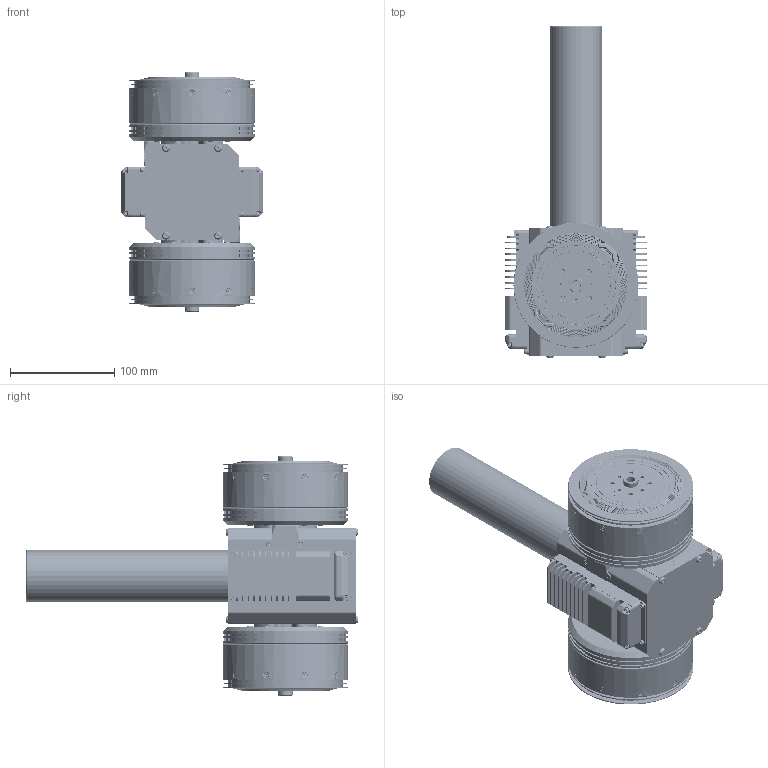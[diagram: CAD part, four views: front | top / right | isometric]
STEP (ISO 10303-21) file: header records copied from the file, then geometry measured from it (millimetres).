
FILE_DESCRIPTION (( 'STEP AP214' ), '1' );
FILE_NAME ('H11共轴-内走线方案.STEP', '2023-02-16T01:08:32', ( 'Windows 用户' ), ( 'Win10com.com' ), 'SwSTEP 2.0', 'SolidWorks 2021', '' );
FILE_SCHEMA (( 'AUTOMOTIVE_DESIGN' ));
Length unit declared in the file: millimetre
Products named in the file (1): H11僕粣-囀軗盄源偶
Bounding box: 137 x 318.7 x 229.8 mm (x, y, z)
Volume: 2010176 mm3; surface area: 428408.3 mm2
Topology: 41 solids, 89 shells, 7550 faces, 20818 edges, 13126 vertices
Faces by surface type: plane 2958, cylinder 2758, cone 1130, bspline 392, torus 304, sphere 8
Entity records: 423788 total; most frequent: CARTESIAN_POINT 150801, ORIENTED_EDGE 41140, DIRECTION 39964, EDGE_CURVE 20570, AXIS2_PLACEMENT_3D 14915, VERTEX_POINT 13126, VECTOR 10134, LINE 10134
